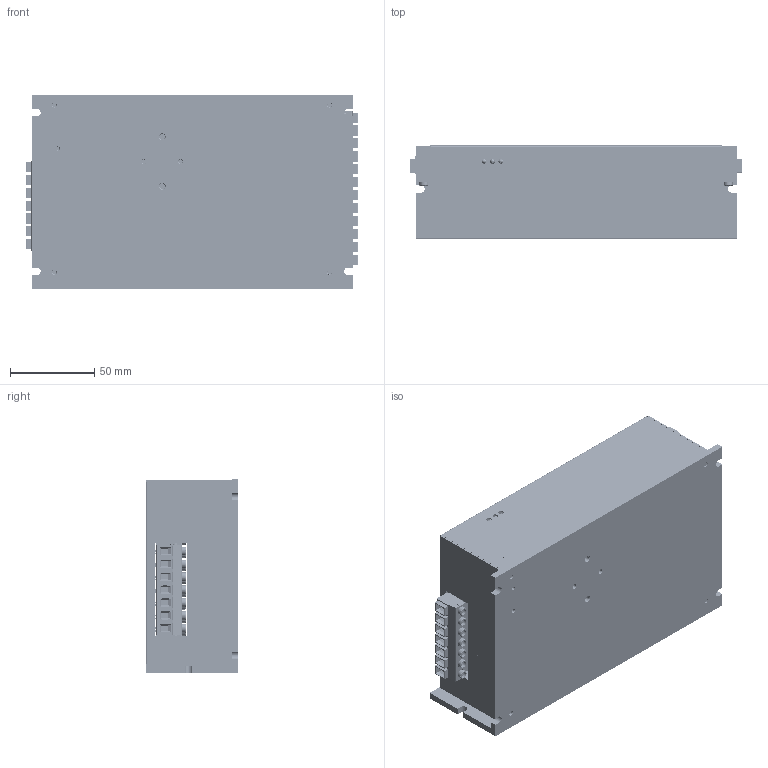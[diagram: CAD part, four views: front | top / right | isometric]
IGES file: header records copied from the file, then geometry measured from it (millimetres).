
Start section: SolidWorks IGES file using analytic representation for surfaces
Global section: file name: E:\marketing\manuals\TAM20\solid\480\480\Tam-480.IGS; native system: SolidWorks 2012; preprocessor: SolidWorks 2012; author: shlomo; date: 120416.100256; units: millimetre
Bounding box: 196.63 x 55 x 115 mm (x, y, z)
Surface area: 172698.8 mm2 (no closed solid volume)
Topology: 0 solids, 0 shells, 5904 faces, 46912 edges, 46830 vertices
Faces by surface type: bspline 4589, revolution 1315
